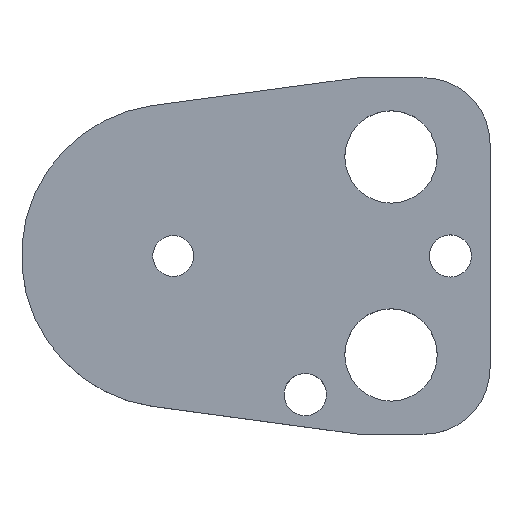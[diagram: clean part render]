
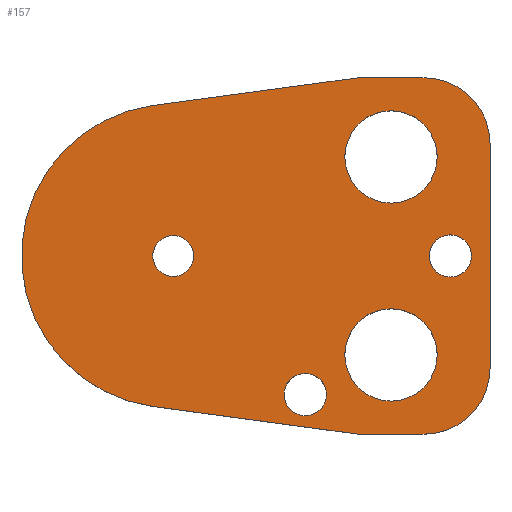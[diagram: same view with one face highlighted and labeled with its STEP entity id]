
A CAD part, top view. The second image highlights one B-rep face of the part: STEP entity #157.
In plain terms, the highlighted planar face has unit normal (0, 0, 1).
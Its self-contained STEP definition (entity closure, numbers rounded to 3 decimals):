
#103=FACE_BOUND('',#207,.T.);
#104=FACE_BOUND('',#208,.T.);
#105=FACE_BOUND('',#209,.T.);
#106=FACE_BOUND('',#210,.T.);
#107=FACE_BOUND('',#211,.T.);
#108=FACE_BOUND('',#212,.T.);
#122=CIRCLE('',#480,10.);
#124=CIRCLE('',#484,10.);
#127=CIRCLE('',#490,23.);
#138=CIRCLE('',#503,3.2);
#139=CIRCLE('',#504,3.2);
#140=CIRCLE('',#505,7.);
#141=CIRCLE('',#506,7.);
#142=CIRCLE('',#507,7.);
#143=CIRCLE('',#508,7.);
#144=CIRCLE('',#509,3.2);
#145=CIRCLE('',#510,3.2);
#146=CIRCLE('',#511,3.1);
#147=CIRCLE('',#512,3.1);
#157=ADVANCED_FACE('',(#103,#104,#105,#106,#107,#108),#174,.T.);
#174=PLANE('',#513);
#207=EDGE_LOOP('',(#273,#274,#275,#276,#277,#278,#279,#280));
#208=EDGE_LOOP('',(#281,#282));
#209=EDGE_LOOP('',(#283,#284));
#210=EDGE_LOOP('',(#285,#286));
#211=EDGE_LOOP('',(#287,#288));
#212=EDGE_LOOP('',(#289,#290));
#273=ORIENTED_EDGE('',*,*,#368,.T.);
#274=ORIENTED_EDGE('',*,*,#372,.T.);
#275=ORIENTED_EDGE('',*,*,#375,.T.);
#276=ORIENTED_EDGE('',*,*,#378,.T.);
#277=ORIENTED_EDGE('',*,*,#381,.T.);
#278=ORIENTED_EDGE('',*,*,#384,.T.);
#279=ORIENTED_EDGE('',*,*,#387,.T.);
#280=ORIENTED_EDGE('',*,*,#390,.T.);
#281=ORIENTED_EDGE('',*,*,#401,.T.);
#282=ORIENTED_EDGE('',*,*,#402,.T.);
#283=ORIENTED_EDGE('',*,*,#403,.T.);
#284=ORIENTED_EDGE('',*,*,#404,.T.);
#285=ORIENTED_EDGE('',*,*,#405,.T.);
#286=ORIENTED_EDGE('',*,*,#406,.T.);
#287=ORIENTED_EDGE('',*,*,#407,.T.);
#288=ORIENTED_EDGE('',*,*,#408,.T.);
#289=ORIENTED_EDGE('',*,*,#409,.T.);
#290=ORIENTED_EDGE('',*,*,#410,.T.);
#332=VERTEX_POINT('',#649);
#333=VERTEX_POINT('',#651);
#336=VERTEX_POINT('',#658);
#338=VERTEX_POINT('',#664);
#340=VERTEX_POINT('',#670);
#342=VERTEX_POINT('',#676);
#344=VERTEX_POINT('',#682);
#346=VERTEX_POINT('',#688);
#357=VERTEX_POINT('',#717);
#358=VERTEX_POINT('',#718);
#359=VERTEX_POINT('',#721);
#360=VERTEX_POINT('',#722);
#361=VERTEX_POINT('',#725);
#362=VERTEX_POINT('',#726);
#363=VERTEX_POINT('',#729);
#364=VERTEX_POINT('',#730);
#365=VERTEX_POINT('',#733);
#366=VERTEX_POINT('',#734);
#368=EDGE_CURVE('',#333,#332,#422,.T.);
#372=EDGE_CURVE('',#332,#336,#426,.T.);
#375=EDGE_CURVE('',#336,#338,#122,.T.);
#378=EDGE_CURVE('',#338,#340,#430,.T.);
#381=EDGE_CURVE('',#340,#342,#124,.T.);
#384=EDGE_CURVE('',#342,#344,#434,.T.);
#387=EDGE_CURVE('',#344,#346,#437,.T.);
#390=EDGE_CURVE('',#346,#333,#127,.T.);
#401=EDGE_CURVE('',#357,#358,#138,.T.);
#402=EDGE_CURVE('',#358,#357,#139,.T.);
#403=EDGE_CURVE('',#359,#360,#140,.T.);
#404=EDGE_CURVE('',#360,#359,#141,.T.);
#405=EDGE_CURVE('',#361,#362,#142,.T.);
#406=EDGE_CURVE('',#362,#361,#143,.T.);
#407=EDGE_CURVE('',#363,#364,#144,.T.);
#408=EDGE_CURVE('',#364,#363,#145,.T.);
#409=EDGE_CURVE('',#365,#366,#146,.T.);
#410=EDGE_CURVE('',#366,#365,#147,.T.);
#422=LINE('',#650,#450);
#426=LINE('',#659,#454);
#430=LINE('',#671,#458);
#434=LINE('',#683,#462);
#437=LINE('',#689,#465);
#450=VECTOR('',#527,1.);
#454=VECTOR('',#533,1.);
#458=VECTOR('',#545,1.);
#462=VECTOR('',#557,1.);
#465=VECTOR('',#562,1.);
#480=AXIS2_PLACEMENT_3D('',#665,#538,#539);
#484=AXIS2_PLACEMENT_3D('',#677,#550,#551);
#490=AXIS2_PLACEMENT_3D('',#693,#568,#569);
#503=AXIS2_PLACEMENT_3D('',#716,#594,#595);
#504=AXIS2_PLACEMENT_3D('',#719,#596,#597);
#505=AXIS2_PLACEMENT_3D('',#720,#598,#599);
#506=AXIS2_PLACEMENT_3D('',#723,#600,#601);
#507=AXIS2_PLACEMENT_3D('',#724,#602,#603);
#508=AXIS2_PLACEMENT_3D('',#727,#604,#605);
#509=AXIS2_PLACEMENT_3D('',#728,#606,#607);
#510=AXIS2_PLACEMENT_3D('',#731,#608,#609);
#511=AXIS2_PLACEMENT_3D('',#732,#610,#611);
#512=AXIS2_PLACEMENT_3D('',#735,#612,#613);
#513=AXIS2_PLACEMENT_3D('',#736,#614,#615);
#527=DIRECTION('',(0.991,-0.134,0.));
#533=DIRECTION('',(1.,0.,0.));
#538=DIRECTION('',(0.,0.,1.));
#539=DIRECTION('',(-0.707,0.707,0.));
#545=DIRECTION('',(0.,1.,0.));
#550=DIRECTION('',(0.,0.,1.));
#551=DIRECTION('',(-0.707,-0.707,0.));
#557=DIRECTION('',(-1.,0.,0.));
#562=DIRECTION('',(-0.991,-0.134,0.));
#568=DIRECTION('',(0.,0.,1.));
#569=DIRECTION('',(1.,0.,0.));
#594=DIRECTION('',(0.,0.,-1.));
#595=DIRECTION('',(-1.,0.,0.));
#596=DIRECTION('',(0.,0.,-1.));
#597=DIRECTION('',(1.,0.,0.));
#598=DIRECTION('',(0.,0.,-1.));
#599=DIRECTION('',(-1.,0.,0.));
#600=DIRECTION('',(0.,0.,-1.));
#601=DIRECTION('',(1.,0.,0.));
#602=DIRECTION('',(0.,0.,-1.));
#603=DIRECTION('',(-1.,0.,0.));
#604=DIRECTION('',(0.,0.,-1.));
#605=DIRECTION('',(1.,0.,0.));
#606=DIRECTION('',(0.,0.,-1.));
#607=DIRECTION('',(-1.,0.,0.));
#608=DIRECTION('',(0.,0.,-1.));
#609=DIRECTION('',(1.,0.,0.));
#610=DIRECTION('',(0.,0.,-1.));
#611=DIRECTION('',(-1.,0.,0.));
#612=DIRECTION('',(0.,0.,-1.));
#613=DIRECTION('',(1.,0.,0.));
#614=DIRECTION('',(0.,0.,1.));
#615=DIRECTION('',(0.991,-0.134,0.));
#649=CARTESIAN_POINT('',(28.,-27.,7.));
#650=CARTESIAN_POINT('',(28.,-27.,7.));
#651=CARTESIAN_POINT('',(-3.085,-22.792,7.));
#658=CARTESIAN_POINT('',(38.,-27.,7.));
#659=CARTESIAN_POINT('',(28.,-27.,7.));
#664=CARTESIAN_POINT('',(48.,-17.,7.));
#665=CARTESIAN_POINT('',(38.,-17.,7.));
#670=CARTESIAN_POINT('',(48.,17.,7.));
#671=CARTESIAN_POINT('',(48.,17.,7.));
#676=CARTESIAN_POINT('',(38.,27.,7.));
#677=CARTESIAN_POINT('',(38.,17.,7.));
#682=CARTESIAN_POINT('',(28.,27.,7.));
#683=CARTESIAN_POINT('',(28.,27.,7.));
#688=CARTESIAN_POINT('',(-3.085,22.792,7.));
#689=CARTESIAN_POINT('',(28.,27.,7.));
#693=CARTESIAN_POINT('',(0.,0.,7.));
#716=CARTESIAN_POINT('',(42.,0.,7.));
#717=CARTESIAN_POINT('',(42.,3.2,7.));
#718=CARTESIAN_POINT('',(42.,-3.2,7.));
#719=CARTESIAN_POINT('',(42.,0.,7.));
#720=CARTESIAN_POINT('',(33.,15.,7.));
#721=CARTESIAN_POINT('',(33.,22.,7.));
#722=CARTESIAN_POINT('',(33.,8.,7.));
#723=CARTESIAN_POINT('',(33.,15.,7.));
#724=CARTESIAN_POINT('',(33.,-15.,7.));
#725=CARTESIAN_POINT('',(33.,-8.,7.));
#726=CARTESIAN_POINT('',(33.,-22.,7.));
#727=CARTESIAN_POINT('',(33.,-15.,7.));
#728=CARTESIAN_POINT('',(20.,-21.,7.));
#729=CARTESIAN_POINT('',(20.,-17.8,7.));
#730=CARTESIAN_POINT('',(20.,-24.2,7.));
#731=CARTESIAN_POINT('',(20.,-21.,7.));
#732=CARTESIAN_POINT('',(0.,0.,7.));
#733=CARTESIAN_POINT('',(0.,3.1,7.));
#734=CARTESIAN_POINT('',(0.,-3.1,7.));
#735=CARTESIAN_POINT('',(0.,0.,7.));
#736=CARTESIAN_POINT('',(-3.085,-22.792,7.));
